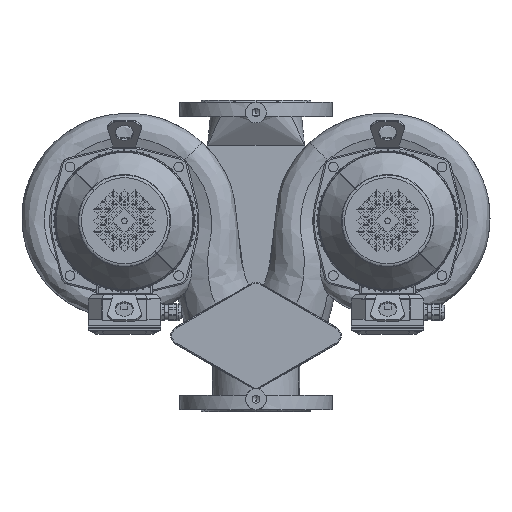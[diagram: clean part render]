
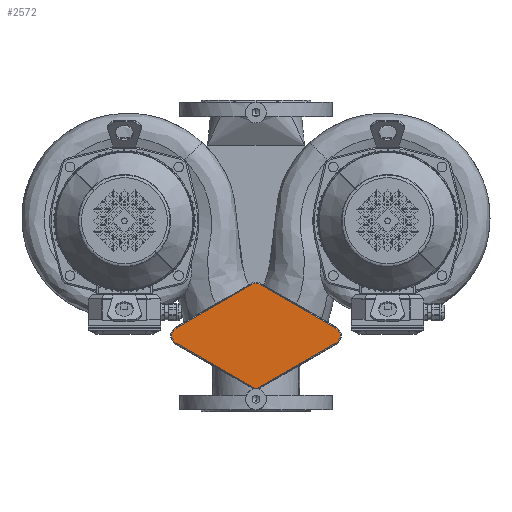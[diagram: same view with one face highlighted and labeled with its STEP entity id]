
A CAD part, top view. The second image highlights one B-rep face of the part: STEP entity #2572.
In plain terms, the highlighted planar face has unit normal (0, 0, 1).
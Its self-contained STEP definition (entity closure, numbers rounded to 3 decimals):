
#2572=ADVANCED_FACE('',(#5402),#5403,.T.);
#2580=EDGE_CURVE('',#5412,#5415,#5416,.T.);
#2588=EDGE_CURVE('',#5415,#5427,#5428,.T.);
#2592=EDGE_CURVE('',#5431,#5434,#5435,.T.);
#2596=EDGE_CURVE('',#5440,#5431,#5441,.T.);
#2604=EDGE_CURVE('',#5450,#5453,#5454,.T.);
#2610=EDGE_CURVE('',#5460,#5463,#5464,.T.);
#3722=EDGE_CURVE('',#5463,#5450,#6987,.T.);
#3728=EDGE_CURVE('',#5453,#5440,#6993,.T.);
#3732=EDGE_CURVE('',#5434,#6997,#6998,.T.);
#3746=EDGE_CURVE('',#5427,#5460,#7015,.T.);
#3748=EDGE_CURVE('',#6997,#5412,#7017,.T.);
#5402=FACE_OUTER_BOUND('',#13469,.T.);
#5403=PLANE('',#13470);
#5412=VERTEX_POINT('',#13480);
#5415=VERTEX_POINT('',#13493);
#5416=LINE('',#13494,#13495);
#5427=VERTEX_POINT('',#13510);
#5428=CIRCLE('',#13511,12.5);
#5431=VERTEX_POINT('',#13515);
#5434=VERTEX_POINT('',#13519);
#5435=LINE('',#13520,#13521);
#5440=VERTEX_POINT('',#13535);
#5441=CIRCLE('',#13536,12.5);
#5450=VERTEX_POINT('',#13548);
#5453=VERTEX_POINT('',#13552);
#5454=LINE('',#13553,#13554);
#5460=VERTEX_POINT('',#13562);
#5463=VERTEX_POINT('',#13566);
#5464=LINE('',#13567,#13568);
#6987=CIRCLE('',#17347,12.5);
#6993=CIRCLE('',#17356,12.5);
#6997=VERTEX_POINT('',#17369);
#6998=CIRCLE('',#17370,14.0);
#7015=CIRCLE('',#17398,12.5);
#7017=CIRCLE('',#17401,14.0);
#13469=EDGE_LOOP('',(#25299,#25300,#25301,#25302,#25303,#25304,#25305,#25306,#25307,#25308,#25309));
#13470=AXIS2_PLACEMENT_3D('',#25310,#25311,#25312);
#13480=CARTESIAN_POINT('',(0.79,241.978,65.));
#13493=CARTESIAN_POINT('',(115.25,175.894,65.));
#13494=CARTESIAN_POINT('',(0.79,241.978,65.));
#13495=VECTOR('',#25331,1.0);
#13510=CARTESIAN_POINT('',(121.5,165.069,65.));
#13511=AXIS2_PLACEMENT_3D('',#25341,#25342,#25343);
#13515=CARTESIAN_POINT('',(-115.25,175.894,65.));
#13519=CARTESIAN_POINT('',(-0.79,241.978,65.));
#13520=CARTESIAN_POINT('',(-115.25,175.894,65.));
#13521=VECTOR('',#25347,1.0);
#13535=CARTESIAN_POINT('',(-121.5,165.069,65.));
#13536=AXIS2_PLACEMENT_3D('',#25348,#25349,#25350);
#13548=CARTESIAN_POINT('',(-6.25,91.312,65.));
#13552=CARTESIAN_POINT('',(-115.25,154.244,65.));
#13553=CARTESIAN_POINT('',(-6.25,91.312,65.));
#13554=VECTOR('',#25360,1.0);
#13562=CARTESIAN_POINT('',(115.25,154.244,65.));
#13566=CARTESIAN_POINT('',(6.25,91.312,65.));
#13567=CARTESIAN_POINT('',(115.25,154.244,65.));
#13568=VECTOR('',#25367,1.0);
#17347=AXIS2_PLACEMENT_3D('',#26201,#26202,#26203);
#17356=AXIS2_PLACEMENT_3D('',#26210,#26211,#26212);
#17369=CARTESIAN_POINT('',(0.0,242.,65.));
#17370=AXIS2_PLACEMENT_3D('',#26213,#26214,#26215);
#17398=AXIS2_PLACEMENT_3D('',#26226,#26227,#26228);
#17401=AXIS2_PLACEMENT_3D('',#26229,#26230,#26231);
#25299=ORIENTED_EDGE('',*,*,#2580,.F.);
#25300=ORIENTED_EDGE('',*,*,#3748,.F.);
#25301=ORIENTED_EDGE('',*,*,#3732,.F.);
#25302=ORIENTED_EDGE('',*,*,#2592,.F.);
#25303=ORIENTED_EDGE('',*,*,#2596,.F.);
#25304=ORIENTED_EDGE('',*,*,#3728,.F.);
#25305=ORIENTED_EDGE('',*,*,#2604,.F.);
#25306=ORIENTED_EDGE('',*,*,#3722,.F.);
#25307=ORIENTED_EDGE('',*,*,#2610,.F.);
#25308=ORIENTED_EDGE('',*,*,#3746,.F.);
#25309=ORIENTED_EDGE('',*,*,#2588,.F.);
#25310=CARTESIAN_POINT('',(7.,240.124,65.));
#25311=DIRECTION('',(0.0,0.0,1.0));
#25312=DIRECTION('',(1.0,0.0,0.0));
#25331=DIRECTION('',(0.866,-0.5,0.0));
#25341=CARTESIAN_POINT('',(109.0,165.069,65.));
#25342=DIRECTION('',(0.0,0.0,-1.0));
#25343=DIRECTION('',(1.0,0.0,0.0));
#25347=DIRECTION('',(0.866,0.5,0.0));
#25348=CARTESIAN_POINT('',(-109.0,165.069,65.));
#25349=DIRECTION('',(0.0,0.0,-1.0));
#25350=DIRECTION('',(-1.0,0.0,0.0));
#25360=DIRECTION('',(-0.866,0.5,0.0));
#25367=DIRECTION('',(-0.866,-0.5,0.0));
#26201=CARTESIAN_POINT('',(0.,102.138,65.));
#26202=DIRECTION('',(0.0,0.0,-1.0));
#26203=DIRECTION('',(0.0,-1.0,0.0));
#26210=CARTESIAN_POINT('',(-109.0,165.069,65.));
#26211=DIRECTION('',(0.0,0.0,-1.0));
#26212=DIRECTION('',(-1.0,0.0,0.0));
#26213=CARTESIAN_POINT('',(0.,228.,65.));
#26214=DIRECTION('',(0.0,0.0,-1.0));
#26215=DIRECTION('',(0.5,0.866,0.0));
#26226=CARTESIAN_POINT('',(109.0,165.069,65.));
#26227=DIRECTION('',(0.0,0.0,-1.0));
#26228=DIRECTION('',(1.0,0.0,0.0));
#26229=CARTESIAN_POINT('',(0.,228.,65.));
#26230=DIRECTION('',(0.0,0.0,-1.0));
#26231=DIRECTION('',(0.5,0.866,0.0));
